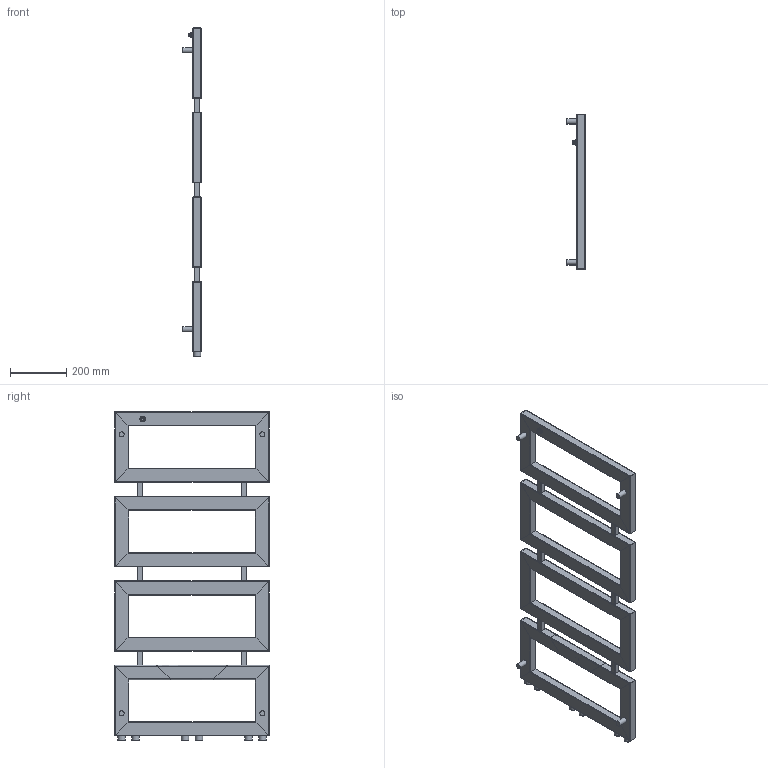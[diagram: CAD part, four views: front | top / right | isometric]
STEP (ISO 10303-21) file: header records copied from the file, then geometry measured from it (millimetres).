
FILE_DESCRIPTION( ( 'Unknown' ), '1' );
FILE_NAME( 'D:/RYSUNKI/RYSUNKI SOLID/SEJWAL/NOWE/PROFILE/ABACO/ABACO.stp', 'Unknown', ( 'Unknown' ), ( 'Unknown' ), 'XStep 1.0', 'Unknown', ' ' );
FILE_SCHEMA( ( 'automotive_design' ) );
Length unit declared in the file: millimetre
Products named in the file (8): Assem1; Assem2; P550; P250; P50; PRZY｣ACZ; ODPOWIETRZNIK; MOCOWANIE
Bounding box: 65 x 550 x 1165 mm (x, y, z)
Volume: 2431026.9 mm3; surface area: 2417720.9 mm2
Topology: 43 solids, 43 shells, 597 faces, 1526 edges, 1019 vertices
Faces by surface type: plane 322, cylinder 259, torus 14, cone 2
Full cylindrical faces by diameter (mm): 4.066 x2, 18 x5, 20 x2, 21.49 x7, 26 x7
Entity records: 5021 total; most frequent: CARTESIAN_POINT 1756, DIRECTION 638, ORIENTED_EDGE 608, EDGE_CURVE 304, AXIS2_PLACEMENT_3D 247, VERTEX_POINT 209, LINE 144, VECTOR 144
